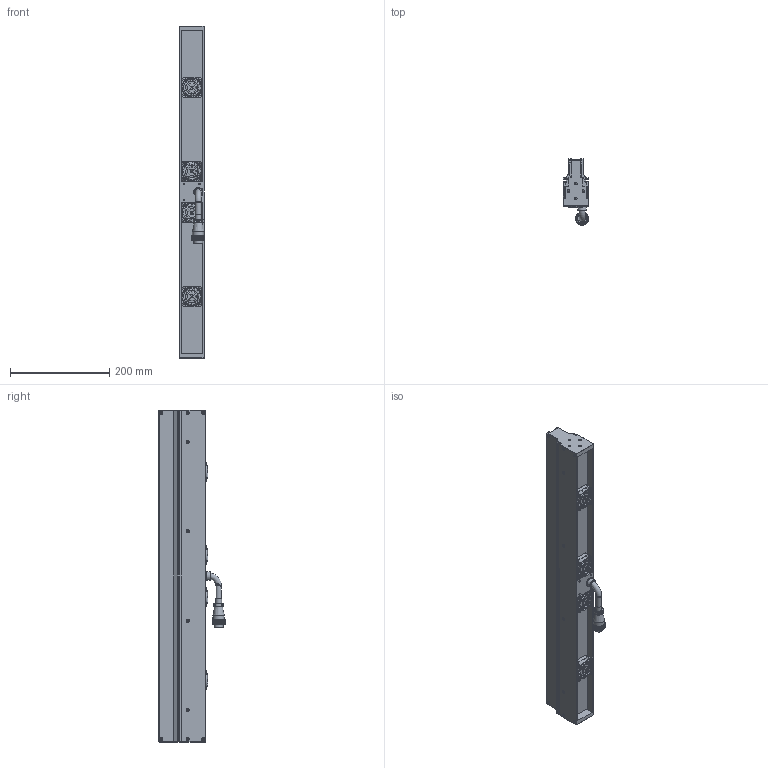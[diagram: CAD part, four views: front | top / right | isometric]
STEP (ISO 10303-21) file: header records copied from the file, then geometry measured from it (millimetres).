
FILE_DESCRIPTION (( 'STEP AP203' ), '1' );
FILE_NAME ('OPT-LSS668-R-V3.1U尨砩芞.STEP', '2025-01-21T06:53:30', ( 'USER' ), ( '' ), 'SwSTEP 2.0', 'SolidWorks 2016', '' );
FILE_SCHEMA (( 'CONFIG_CONTROL_DESIGN' ));
Products named in the file (2): OPT-LSS668-R-V3.1U尨砩芞
Bounding box: 50.6 x 133 x 668 mm (x, y, z)
Volume: 2236261.8 mm3; surface area: 359740 mm2
Topology: 22 solids, 34 shells, 2776 faces, 7101 edges, 4491 vertices
Faces by surface type: bspline 1051, cylinder 827, plane 611, torus 232, cone 55
Full cylindrical faces by diameter (mm): 1 x2, 1.1 x2, 1.4 x2, 1.6 x16, 2 x4, 2.5 x24, 3 x4, 3.2 x20, 3.4 x20, 3.5 x8, 5 x8, 6.2 x16, 8 x1, 11.6 x1, 11.7 x3, 12 x1, 15 x1, 15.9 x1, 17.5 x1, 18 x1, 18.5 x1, 22.8 x1, 24 x1, 24.8 x4, 38 x4
Entity records: 104296 total; most frequent: CARTESIAN_POINT 49131, ORIENTED_EDGE 13434, DIRECTION 7381, EDGE_CURVE 6717, VERTEX_POINT 4402, B_SPLINE_CURVE_WITH_KNOTS 4077, EDGE_LOOP 3215, AXIS2_PLACEMENT_3D 3022
